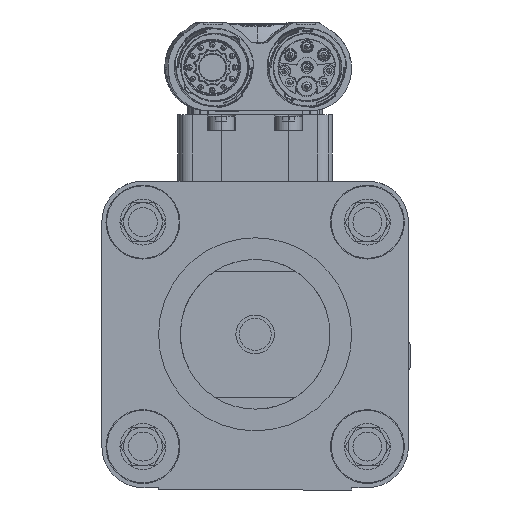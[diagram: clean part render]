
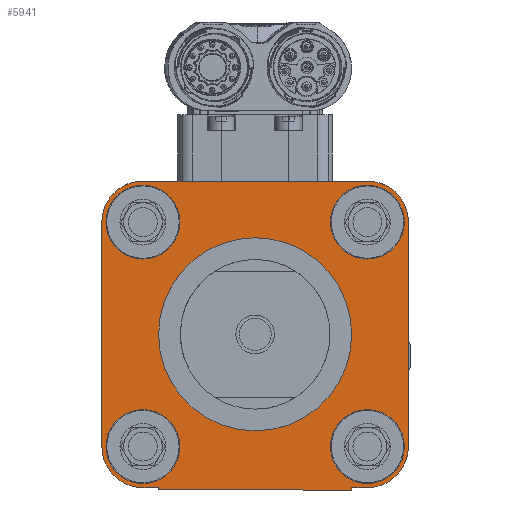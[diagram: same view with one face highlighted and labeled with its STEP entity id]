
A CAD part, left-side view. The second image highlights one B-rep face of the part: STEP entity #5941.
In plain terms, the highlighted planar face has unit normal (-1, 0, 0) as drawn and (0, 0, 1) by its records, which use the part's own axes.
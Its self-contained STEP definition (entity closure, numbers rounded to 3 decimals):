
#5941=ADVANCED_FACE('10:20',(#12131,#12132,#12133,#12134,#12135,#12136),#12137,.T.);
#12131=FACE_BOUND('',#35365,.T.);
#12132=FACE_BOUND('',#35366,.T.);
#12133=FACE_BOUND('',#35367,.T.);
#12134=FACE_BOUND('',#35368,.T.);
#12135=FACE_BOUND('',#35369,.T.);
#12136=FACE_OUTER_BOUND('',#35370,.T.);
#12137=PLANE('',#35371);
#35365=EDGE_LOOP('',(#56963,#56964));
#35366=EDGE_LOOP('',(#56965,#56966));
#35367=EDGE_LOOP('',(#56967,#56968));
#35368=EDGE_LOOP('',(#56969,#56970));
#35369=EDGE_LOOP('',(#56971,#56972));
#35370=EDGE_LOOP('',(#56973,#56974,#56975,#56976,#56977,#56978,#56979,#56980,#56981,#56982,#56983,#56984,#56985,#56986,#56987,#56988));
#35371=AXIS2_PLACEMENT_3D('',#56989,#56990,#56991);
#56963=ORIENTED_EDGE('',*,*,#70489,.F.);
#56964=ORIENTED_EDGE('',*,*,#70490,.F.);
#56965=ORIENTED_EDGE('',*,*,#67904,.F.);
#56966=ORIENTED_EDGE('',*,*,#70491,.F.);
#56967=ORIENTED_EDGE('',*,*,#70492,.F.);
#56968=ORIENTED_EDGE('',*,*,#69118,.F.);
#56969=ORIENTED_EDGE('',*,*,#65188,.F.);
#56970=ORIENTED_EDGE('',*,*,#70202,.F.);
#56971=ORIENTED_EDGE('',*,*,#70204,.F.);
#56972=ORIENTED_EDGE('',*,*,#61398,.F.);
#56973=ORIENTED_EDGE('',*,*,#63071,.F.);
#56974=ORIENTED_EDGE('',*,*,#66655,.F.);
#56975=ORIENTED_EDGE('',*,*,#70493,.F.);
#56976=ORIENTED_EDGE('',*,*,#68891,.F.);
#56977=ORIENTED_EDGE('',*,*,#64116,.F.);
#56978=ORIENTED_EDGE('',*,*,#63611,.F.);
#56979=ORIENTED_EDGE('',*,*,#70280,.F.);
#56980=ORIENTED_EDGE('',*,*,#62909,.F.);
#56981=ORIENTED_EDGE('',*,*,#69720,.F.);
#56982=ORIENTED_EDGE('',*,*,#70494,.F.);
#56983=ORIENTED_EDGE('',*,*,#67894,.F.);
#56984=ORIENTED_EDGE('',*,*,#62474,.F.);
#56985=ORIENTED_EDGE('',*,*,#65621,.F.);
#56986=ORIENTED_EDGE('',*,*,#65134,.F.);
#56987=ORIENTED_EDGE('',*,*,#65667,.F.);
#56988=ORIENTED_EDGE('',*,*,#70495,.F.);
#56989=CARTESIAN_POINT('',(0.,0.,34.0));
#56990=DIRECTION('',(0.0,0.0,1.0));
#56991=DIRECTION('',(1.0,0.0,0.0));
#61398=EDGE_CURVE('',#73556,#73558,#73559,.F.);
#62474=EDGE_CURVE('13:385',#75530,#75532,#75533,.F.);
#62909=EDGE_CURVE('0:845',#76321,#76324,#76325,.F.);
#63071=EDGE_CURVE('0:1801',#76615,#76611,#76617,.F.);
#63611=EDGE_CURVE('',#77598,#77600,#77601,.F.);
#64116=EDGE_CURVE('0:854',#77600,#78507,#78510,.F.);
#65134=EDGE_CURVE('13:400',#80342,#80344,#80345,.F.);
#65188=EDGE_CURVE('0:1551',#80438,#80434,#80440,.F.);
#65621=EDGE_CURVE('13:394',#80344,#75530,#81210,.F.);
#65667=EDGE_CURVE('13:41',#81288,#80342,#81290,.F.);
#66655=EDGE_CURVE('0:863',#83060,#76615,#83062,.F.);
#67894=EDGE_CURVE('13:44',#75532,#85257,#85258,.F.);
#67904=EDGE_CURVE('0:1577',#85273,#85269,#85275,.F.);
#68891=EDGE_CURVE('0:1695',#78507,#87026,#87028,.F.);
#69118=EDGE_CURVE('',#87430,#87432,#87433,.F.);
#69720=EDGE_CURVE('',#88517,#76321,#88519,.F.);
#70202=EDGE_CURVE('',#80434,#80438,#89412,.F.);
#70204=EDGE_CURVE('0:1525',#73558,#73556,#89414,.F.);
#70280=EDGE_CURVE('0:1637',#76324,#77598,#89546,.F.);
#70489=EDGE_CURVE('10:253',#89914,#89915,#89916,.F.);
#70490=EDGE_CURVE('',#89915,#89914,#89917,.F.);
#70491=EDGE_CURVE('',#85269,#85273,#89918,.F.);
#70492=EDGE_CURVE('0:1603',#87432,#87430,#89919,.F.);
#70493=EDGE_CURVE('',#87026,#83060,#89920,.F.);
#70494=EDGE_CURVE('0:1747',#85257,#88517,#89921,.F.);
#70495=EDGE_CURVE('',#76611,#81288,#89922,.F.);
#73556=VERTEX_POINT('',#95400);
#73558=VERTEX_POINT('',#95403);
#73559=CIRCLE('',#95404,7.65);
#75530=VERTEX_POINT('',#99292);
#75532=VERTEX_POINT('',#99295);
#75533=LINE('',#99296,#99297);
#76321=VERTEX_POINT('',#100730);
#76324=VERTEX_POINT('',#100734);
#76325=LINE('',#100735,#100736);
#76611=VERTEX_POINT('',#101250);
#76615=VERTEX_POINT('',#101255);
#76617=CIRCLE('',#101258,8.5);
#77598=VERTEX_POINT('',#103480);
#77600=VERTEX_POINT('',#103483);
#77601=CIRCLE('',#103484,8.5);
#78507=VERTEX_POINT('',#105293);
#78510=LINE('',#105298,#105299);
#80342=VERTEX_POINT('',#108931);
#80344=VERTEX_POINT('',#108934);
#80345=LINE('',#108935,#108936);
#80434=VERTEX_POINT('',#109144);
#80438=VERTEX_POINT('',#109149);
#80440=CIRCLE('',#109152,7.65);
#81210=LINE('',#110471,#110472);
#81288=VERTEX_POINT('',#110608);
#81290=LINE('',#110611,#110612);
#83060=VERTEX_POINT('',#114047);
#83062=LINE('',#114050,#114051);
#85257=VERTEX_POINT('',#118508);
#85258=LINE('',#118509,#118510);
#85269=VERTEX_POINT('',#118545);
#85273=VERTEX_POINT('',#118550);
#85275=CIRCLE('',#118553,7.65);
#87026=VERTEX_POINT('',#121923);
#87028=CIRCLE('',#121926,8.5);
#87430=VERTEX_POINT('',#122738);
#87432=VERTEX_POINT('',#122741);
#87433=CIRCLE('',#122742,7.65);
#88517=VERTEX_POINT('',#124619);
#88519=CIRCLE('',#124622,8.5);
#89412=CIRCLE('',#126211,7.65);
#89414=CIRCLE('',#126213,7.65);
#89546=CIRCLE('',#126485,8.5);
#89914=VERTEX_POINT('',#127227);
#89915=VERTEX_POINT('',#127228);
#89916=CIRCLE('',#127229,20.0);
#89917=CIRCLE('',#127230,20.0);
#89918=CIRCLE('',#127231,7.65);
#89919=CIRCLE('',#127232,7.65);
#89920=CIRCLE('',#127233,8.5);
#89921=CIRCLE('',#127234,8.5);
#89922=CIRCLE('',#127235,8.5);
#95400=CARTESIAN_POINT('',(0.209,9.864,34.0));
#95403=CARTESIAN_POINT('',(-15.091,9.864,34.0));
#95404=AXIS2_PLACEMENT_3D('',#137171,#137172,#137173);
#99292=CARTESIAN_POINT('',(-4.191,-45.636,34.0));
#99295=CARTESIAN_POINT('',(-4.191,-45.136,34.0));
#99296=CARTESIAN_POINT('',(-4.191,-22.693,34.0));
#99297=VECTOR('',#138553,1.0);
#100730=CARTESIAN_POINT('',(-15.941,-36.636,34.0));
#100734=CARTESIAN_POINT('',(-15.941,9.864,34.0));
#100735=CARTESIAN_POINT('',(-15.941,-6.693,34.0));
#100736=VECTOR('',#139187,1.0);
#101250=CARTESIAN_POINT('',(45.069,-42.647,34.0));
#101255=CARTESIAN_POINT('',(47.559,-36.636,34.0));
#101258=AXIS2_PLACEMENT_3D('',#139381,#139382,#139383);
#103480=CARTESIAN_POINT('',(-13.451,15.874,34.0));
#103483=CARTESIAN_POINT('',(-7.441,18.364,34.0));
#103484=AXIS2_PLACEMENT_3D('',#140064,#140065,#140066);
#105293=CARTESIAN_POINT('',(39.059,18.364,34.0));
#105298=CARTESIAN_POINT('',(7.904,18.364,34.0));
#105299=VECTOR('',#140703,1.0);
#108931=CARTESIAN_POINT('',(35.809,-45.136,34.0));
#108934=CARTESIAN_POINT('',(35.809,-45.636,34.0));
#108935=CARTESIAN_POINT('',(35.809,-22.693,34.0));
#108936=VECTOR('',#141988,1.0);
#109144=CARTESIAN_POINT('',(46.709,9.864,34.0));
#109149=CARTESIAN_POINT('',(31.409,9.864,34.0));
#109152=AXIS2_PLACEMENT_3D('',#142046,#142047,#142048);
#110471=CARTESIAN_POINT('',(7.904,-45.636,34.0));
#110472=VECTOR('',#142639,1.0);
#110608=CARTESIAN_POINT('',(39.059,-45.136,34.0));
#110611=CARTESIAN_POINT('',(7.904,-45.136,34.0));
#110612=VECTOR('',#142687,1.0);
#114047=CARTESIAN_POINT('',(47.559,9.864,34.0));
#114050=CARTESIAN_POINT('',(47.559,-6.693,34.0));
#114051=VECTOR('',#144037,1.0);
#118508=CARTESIAN_POINT('',(-7.441,-45.136,34.0));
#118509=CARTESIAN_POINT('',(7.904,-45.136,34.0));
#118510=VECTOR('',#145597,1.0);
#118545=CARTESIAN_POINT('',(46.709,-36.636,34.0));
#118550=CARTESIAN_POINT('',(31.409,-36.636,34.0));
#118553=AXIS2_PLACEMENT_3D('',#145604,#145605,#145606);
#121923=CARTESIAN_POINT('',(45.069,15.874,34.0));
#121926=AXIS2_PLACEMENT_3D('',#146958,#146959,#146960);
#122738=CARTESIAN_POINT('',(0.209,-36.636,34.0));
#122741=CARTESIAN_POINT('',(-15.091,-36.636,34.0));
#122742=AXIS2_PLACEMENT_3D('',#147247,#147248,#147249);
#124619=CARTESIAN_POINT('',(-13.451,-42.647,34.0));
#124622=AXIS2_PLACEMENT_3D('',#148103,#148104,#148105);
#126211=AXIS2_PLACEMENT_3D('',#148796,#148797,#148798);
#126213=AXIS2_PLACEMENT_3D('',#148799,#148800,#148801);
#126485=AXIS2_PLACEMENT_3D('',#148906,#148907,#148908);
#127227=CARTESIAN_POINT('',(-4.191,-13.386,34.0));
#127228=CARTESIAN_POINT('',(35.809,-13.386,34.0));
#127229=AXIS2_PLACEMENT_3D('',#149183,#149184,#149185);
#127230=AXIS2_PLACEMENT_3D('',#149186,#149187,#149188);
#127231=AXIS2_PLACEMENT_3D('',#149189,#149190,#149191);
#127232=AXIS2_PLACEMENT_3D('',#149192,#149193,#149194);
#127233=AXIS2_PLACEMENT_3D('',#149195,#149196,#149197);
#127234=AXIS2_PLACEMENT_3D('',#149198,#149199,#149200);
#127235=AXIS2_PLACEMENT_3D('',#149201,#149202,#149203);
#137171=CARTESIAN_POINT('',(-7.441,9.864,34.0));
#137172=DIRECTION('',(0.0,0.0,-1.0));
#137173=DIRECTION('',(1.0,0.0,0.0));
#138553=DIRECTION('',(0.0,-1.0,0.0));
#139187=DIRECTION('',(0.0,-1.0,0.0));
#139381=CARTESIAN_POINT('',(39.059,-36.636,34.0));
#139382=DIRECTION('',(0.0,0.0,1.0));
#139383=DIRECTION('',(0.707,-0.707,0.0));
#140064=CARTESIAN_POINT('',(-7.441,9.864,34.0));
#140065=DIRECTION('',(0.0,0.0,1.0));
#140066=DIRECTION('',(-0.707,0.707,0.0));
#140703=DIRECTION('',(-1.0,0.0,0.0));
#141988=DIRECTION('',(-0.0,1.0,0.0));
#142046=CARTESIAN_POINT('',(39.059,9.864,34.0));
#142047=DIRECTION('',(0.0,0.0,-1.0));
#142048=DIRECTION('',(1.0,0.0,0.0));
#142639=DIRECTION('',(1.0,0.0,-0.0));
#142687=DIRECTION('',(1.0,0.0,-0.0));
#144037=DIRECTION('',(-0.0,1.0,0.0));
#145597=DIRECTION('',(1.0,0.0,-0.0));
#145604=CARTESIAN_POINT('',(39.059,-36.636,34.0));
#145605=DIRECTION('',(0.0,0.0,-1.0));
#145606=DIRECTION('',(1.0,0.0,0.0));
#146958=CARTESIAN_POINT('',(39.059,9.864,34.0));
#146959=DIRECTION('',(0.0,-0.0,1.0));
#146960=DIRECTION('',(0.707,0.707,0.0));
#147247=CARTESIAN_POINT('',(-7.441,-36.636,34.0));
#147248=DIRECTION('',(0.0,0.0,-1.0));
#147249=DIRECTION('',(1.0,0.0,0.0));
#148103=CARTESIAN_POINT('',(-7.441,-36.636,34.0));
#148104=DIRECTION('',(0.0,0.0,1.0));
#148105=DIRECTION('',(-0.707,-0.707,0.0));
#148796=CARTESIAN_POINT('',(39.059,9.864,34.0));
#148797=DIRECTION('',(0.0,0.0,-1.0));
#148798=DIRECTION('',(1.0,0.0,0.0));
#148799=CARTESIAN_POINT('',(-7.441,9.864,34.0));
#148800=DIRECTION('',(0.0,0.0,-1.0));
#148801=DIRECTION('',(1.0,0.0,0.0));
#148906=CARTESIAN_POINT('',(-7.441,9.864,34.0));
#148907=DIRECTION('',(0.0,0.0,1.0));
#148908=DIRECTION('',(-0.707,0.707,0.0));
#149183=CARTESIAN_POINT('',(15.809,-13.386,34.0));
#149184=DIRECTION('',(0.0,0.0,-1.0));
#149185=DIRECTION('',(1.0,0.0,0.0));
#149186=CARTESIAN_POINT('',(15.809,-13.386,34.0));
#149187=DIRECTION('',(0.0,0.0,-1.0));
#149188=DIRECTION('',(1.0,0.0,0.0));
#149189=CARTESIAN_POINT('',(39.059,-36.636,34.0));
#149190=DIRECTION('',(0.0,0.0,-1.0));
#149191=DIRECTION('',(1.0,0.0,0.0));
#149192=CARTESIAN_POINT('',(-7.441,-36.636,34.0));
#149193=DIRECTION('',(0.0,0.0,-1.0));
#149194=DIRECTION('',(1.0,0.0,0.0));
#149195=CARTESIAN_POINT('',(39.059,9.864,34.0));
#149196=DIRECTION('',(0.0,-0.0,1.0));
#149197=DIRECTION('',(0.707,0.707,0.0));
#149198=CARTESIAN_POINT('',(-7.441,-36.636,34.0));
#149199=DIRECTION('',(0.0,0.0,1.0));
#149200=DIRECTION('',(-0.707,-0.707,0.0));
#149201=CARTESIAN_POINT('',(39.059,-36.636,34.0));
#149202=DIRECTION('',(0.0,0.0,1.0));
#149203=DIRECTION('',(0.707,-0.707,0.0));
